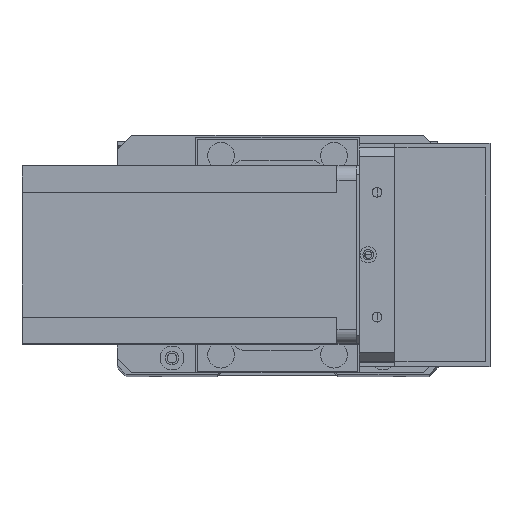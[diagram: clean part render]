
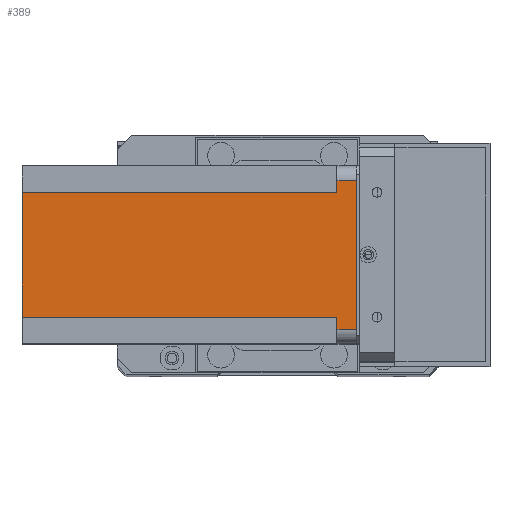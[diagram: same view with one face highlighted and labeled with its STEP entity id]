
A CAD part, top view. The second image highlights one B-rep face of the part: STEP entity #389.
In plain terms, the highlighted planar face has unit normal (0, 0, 1) as drawn and (1, 0, 0) by its records, which use the part's own axes.
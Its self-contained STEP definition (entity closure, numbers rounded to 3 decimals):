
#167 = VERTEX_POINT ( 'NONE', #8186 ) ;
#389 = ADVANCED_FACE ( 'NONE', ( #4795 ), #20553, .T. ) ;
#764 = ORIENTED_EDGE ( 'NONE', *, *, #25386, .T. ) ;
#1680 = AXIS2_PLACEMENT_3D ( 'NONE', #7128, #9362, #25039 ) ;
#1902 = VERTEX_POINT ( 'NONE', #21862 ) ;
#2061 = VERTEX_POINT ( 'NONE', #4455 ) ;
#3270 = CARTESIAN_POINT ( 'NONE',  ( 60., 51., -112.5 ) ) ;
#3835 = CARTESIAN_POINT ( 'NONE',  ( 60., 0., 0. ) ) ;
#4290 = VERTEX_POINT ( 'NONE', #12892 ) ;
#4398 = CARTESIAN_POINT ( 'NONE',  ( 60., 51., -112.5 ) ) ;
#4455 = CARTESIAN_POINT ( 'NONE',  ( 60., 9., -6.5 ) ) ;
#4650 = EDGE_LOOP ( 'NONE', ( #18697, #764, #13109, #17260, #21598, #6543, #23040, #19947 ) ) ;
#4771 = VERTEX_POINT ( 'NONE', #21316 ) ;
#4795 = FACE_OUTER_BOUND ( 'NONE', #4650, .T. ) ;
#4874 = VECTOR ( 'NONE', #18371, 1000. ) ;
#4876 = CARTESIAN_POINT ( 'NONE',  ( 60., 0., -6.5 ) ) ;
#5213 = VECTOR ( 'NONE', #27619, 1000. ) ;
#5557 = DIRECTION ( 'NONE',  ( 0., 0., 1. ) ) ;
#5567 = LINE ( 'NONE', #4876, #4874 ) ;
#5816 = DIRECTION ( 'NONE',  ( 0., 0., -1. ) ) ;
#6133 = EDGE_CURVE ( 'NONE', #1902, #27314, #18172, .T. ) ;
#6250 = VECTOR ( 'NONE', #19482, 1000. ) ;
#6518 = DIRECTION ( 'NONE',  ( 0., 0., -1. ) ) ;
#6543 = ORIENTED_EDGE ( 'NONE', *, *, #9418, .F. ) ;
#6705 = CARTESIAN_POINT ( 'NONE',  ( 60., 9., -112.5 ) ) ;
#6741 = LINE ( 'NONE', #12460, #23916 ) ;
#7020 = LINE ( 'NONE', #23018, #18233 ) ;
#7039 = VECTOR ( 'NONE', #5557, 1000. ) ;
#7128 = CARTESIAN_POINT ( 'NONE',  ( 60., 0., -112.5 ) ) ;
#7807 = CARTESIAN_POINT ( 'NONE',  ( 60., 55., -112.5 ) ) ;
#8186 = CARTESIAN_POINT ( 'NONE',  ( 60., 51., -6.5 ) ) ;
#8312 = EDGE_CURVE ( 'NONE', #4290, #167, #23063, .T. ) ;
#9362 = DIRECTION ( 'NONE',  ( 1., 0., 0. ) ) ;
#9418 = EDGE_CURVE ( 'NONE', #4771, #2061, #25456, .T. ) ;
#11206 = CARTESIAN_POINT ( 'NONE',  ( 60., 55., 0. ) ) ;
#11866 = EDGE_CURVE ( 'NONE', #1902, #16885, #6741, .T. ) ;
#12460 = CARTESIAN_POINT ( 'NONE',  ( 60., 5., -112.5 ) ) ;
#12892 = CARTESIAN_POINT ( 'NONE',  ( 60., 55., -6.5 ) ) ;
#13109 = ORIENTED_EDGE ( 'NONE', *, *, #6133, .F. ) ;
#16377 = DIRECTION ( 'NONE',  ( 0., 1., 0. ) ) ;
#16481 = CARTESIAN_POINT ( 'NONE',  ( 60., 60., -6.5 ) ) ;
#16885 = VERTEX_POINT ( 'NONE', #23822 ) ;
#17260 = ORIENTED_EDGE ( 'NONE', *, *, #11866, .T. ) ;
#17886 = LINE ( 'NONE', #4398, #23140 ) ;
#18172 = LINE ( 'NONE', #3835, #6250 ) ;
#18233 = VECTOR ( 'NONE', #16377, 1000. ) ;
#18371 = DIRECTION ( 'NONE',  ( 0., -1., 0. ) ) ;
#18697 = ORIENTED_EDGE ( 'NONE', *, *, #8312, .F. ) ;
#19482 = DIRECTION ( 'NONE',  ( 0., 1., 0. ) ) ;
#19947 = ORIENTED_EDGE ( 'NONE', *, *, #25566, .F. ) ;
#20553 = PLANE ( 'NONE',  #1680 ) ;
#21316 = CARTESIAN_POINT ( 'NONE',  ( 60., 9., -112.5 ) ) ;
#21598 = ORIENTED_EDGE ( 'NONE', *, *, #27424, .F. ) ;
#21862 = CARTESIAN_POINT ( 'NONE',  ( 60., 5., 0. ) ) ;
#23018 = CARTESIAN_POINT ( 'NONE',  ( 60., 0., -112.5 ) ) ;
#23040 = ORIENTED_EDGE ( 'NONE', *, *, #26486, .T. ) ;
#23063 = LINE ( 'NONE', #16481, #5213 ) ;
#23140 = VECTOR ( 'NONE', #6518, 1000. ) ;
#23822 = CARTESIAN_POINT ( 'NONE',  ( 60., 5., -6.5 ) ) ;
#23916 = VECTOR ( 'NONE', #5816, 1000. ) ;
#25039 = DIRECTION ( 'NONE',  ( 0., 1., 0. ) ) ;
#25386 = EDGE_CURVE ( 'NONE', #4290, #27314, #25610, .T. ) ;
#25456 = LINE ( 'NONE', #6705, #26136 ) ;
#25566 = EDGE_CURVE ( 'NONE', #167, #28162, #17886, .T. ) ;
#25610 = LINE ( 'NONE', #7807, #7039 ) ;
#26136 = VECTOR ( 'NONE', #26867, 1000. ) ;
#26486 = EDGE_CURVE ( 'NONE', #4771, #28162, #7020, .T. ) ;
#26867 = DIRECTION ( 'NONE',  ( 0., 0., 1. ) ) ;
#27314 = VERTEX_POINT ( 'NONE', #11206 ) ;
#27424 = EDGE_CURVE ( 'NONE', #2061, #16885, #5567, .T. ) ;
#27619 = DIRECTION ( 'NONE',  ( 0., -1., 0. ) ) ;
#28162 = VERTEX_POINT ( 'NONE', #3270 ) ;
